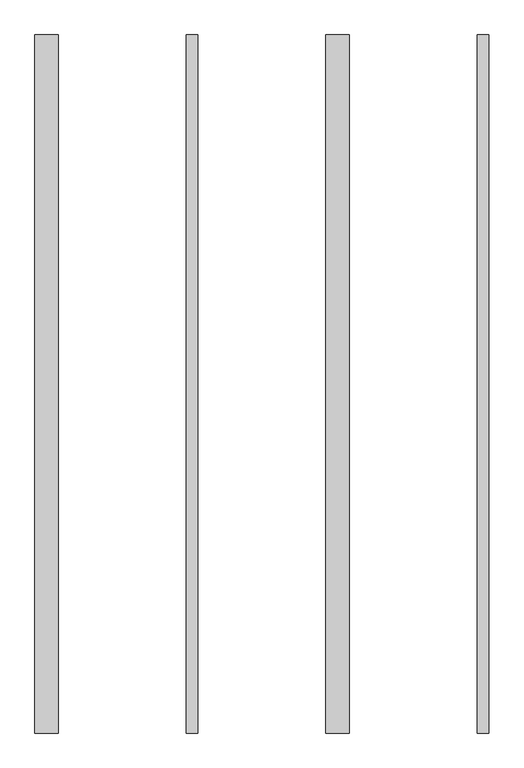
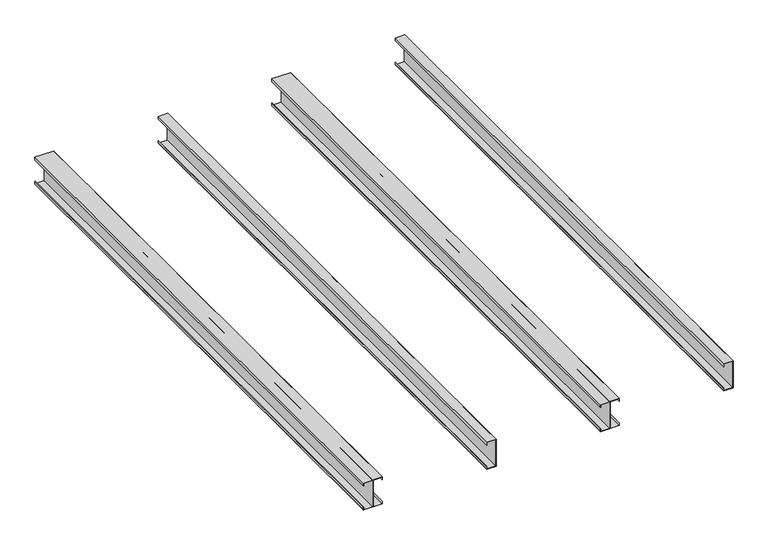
"""IFC4 building model written with IfcOpenShell, lengths in millimetres: proxy geometry, C and 2xCprofile 150mm : C and 2xCprofile 150mm."""

from ifc_helpers import new_model, si_unit, point, frame, frame_2d, origin, place, context, project, spatial, polyline, circle_curve, trimmed, segment, composite_curve, outline, extrude, source, transform, mapped, element, save


def generic_models_1a6a84ba(model_context):
    return source(origin(), model_context, "Body", "SweptSolid", [
        extrude(outline(composite_curve([segment(polyline([(73.8, 1223.8), (-73.8, 1223.8), (-73.8, 1176.2), (-60.0, 1176.2), (-60.0, 1175.0), (-74.3270817, 1175.0)]), True, "CONTINUOUS"), segment(trimmed(circle_curve(frame_2d((-74.3270817, 1175.6729183)), 0.6729183), [point((-74.3270817, 1175.0))], [point((-75.0, 1175.6729183))], False, "CARTESIAN"), True, "CONTINUOUS"), segment(polyline([(-75.0, 1175.6729183), (-75.0, 1275.0), (-60.0, 1275.0), (-60.0, 1273.8), (-73.8, 1273.8), (-73.8, 1226.2), (73.8, 1226.2), (73.8, 1273.8), (60.0, 1273.8), (60.0, 1275.0), (75.0, 1275.0), (75.0, 1175.0), (60.0, 1175.0), (60.0, 1176.2), (73.8, 1176.2), (73.8, 1223.8)]), True, "CONTINUOUS")], self_intersect=False)), frame((0.0, 0.0, 0.0), z_axis=(0.0, 1.0, 0.0), x_axis=(0.0, 0.0, 1.0)), (0.0, 0.0, 1.0), 3000.0),
        extrude(outline(composite_curve([segment(polyline([(73.8, -26.2), (-73.8, -26.2), (-73.8, -73.8), (-60.0, -73.8), (-60.0, -75.0), (-74.3270817, -75.0)]), True, "CONTINUOUS"), segment(trimmed(circle_curve(frame_2d((-74.3270817, -74.3270817)), 0.6729183), [point((-74.3270817, -75.0))], [point((-75.0, -74.3270817))], False, "CARTESIAN"), True, "CONTINUOUS"), segment(polyline([(-75.0, -74.3270817), (-75.0, 25.0), (-60.0, 25.0), (-60.0, 23.8), (-73.8, 23.8), (-73.8, -23.8), (73.8, -23.8), (73.8, 23.8), (60.0, 23.8), (60.0, 25.0), (75.0, 25.0), (75.0, -75.0), (60.0, -75.0), (60.0, -73.8), (73.8, -73.8), (73.8, -26.2)]), True, "CONTINUOUS")], self_intersect=False)), frame((0.0, 0.0, 0.0), z_axis=(0.0, 1.0, 0.0), x_axis=(0.0, 0.0, 1.0)), (0.0, 0.0, 1.0), 3000.0),
        extrude(outline(composite_curve([segment(polyline([(73.8, 1873.8), (-73.8, 1873.8), (-73.8, 1826.2), (-60.0, 1826.2), (-60.0, 1825.0), (-74.3270817, 1825.0)]), True, "CONTINUOUS"), segment(trimmed(circle_curve(frame_2d((-74.3270817, 1825.6729183)), 0.6729183), [point((-74.3270817, 1825.0))], [point((-75.0, 1825.6729183))], False, "CARTESIAN"), True, "CONTINUOUS"), segment(polyline([(-75.0, 1825.6729183), (-75.0, 1875.0), (75.0, 1875.0), (75.0, 1825.0), (60.0, 1825.0), (60.0, 1826.2), (73.8, 1826.2), (73.8, 1873.8)]), True, "CONTINUOUS")], self_intersect=False)), frame((0.0, 0.0, 0.0), z_axis=(0.0, 1.0, 0.0), x_axis=(0.0, 0.0, 1.0)), (0.0, 0.0, 1.0), 3000.0),
        extrude(outline(composite_curve([segment(polyline([(73.8, 623.8), (-73.8, 623.8), (-73.8, 576.2), (-60.0, 576.2), (-60.0, 575.0), (-74.3270817, 575.0)]), True, "CONTINUOUS"), segment(trimmed(circle_curve(frame_2d((-74.3270817, 575.6729183)), 0.6729183), [point((-74.3270817, 575.0))], [point((-75.0, 575.6729183))], False, "CARTESIAN"), True, "CONTINUOUS"), segment(polyline([(-75.0, 575.6729183), (-75.0, 625.0), (75.0, 625.0), (75.0, 575.0), (60.0, 575.0), (60.0, 576.2), (73.8, 576.2), (73.8, 623.8)]), True, "CONTINUOUS")], self_intersect=False)), frame((0.0, 0.0, 0.0), z_axis=(0.0, 1.0, 0.0), x_axis=(0.0, 0.0, 1.0)), (0.0, 0.0, 1.0), 3000.0),
    ])


if __name__ == "__main__":
    model = new_model("IFC4")
    model_context = context("Model", 3, world=origin())
    ifc_project = project(units=[si_unit("LENGTHUNIT", "METRE", prefix="MILLI")], contexts=[model_context])
    site = spatial("IfcSite", under=ifc_project)
    building = spatial("IfcBuilding", under=site)
    placement = place(None, origin())
    generic_models_shape = generic_models_1a6a84ba(model_context)
    element("IfcBuildingElementProxy", 1, Name="C and 2xCprofile 150mm : C and 2xCprofile 150mm", ObjectType="C and 2xCprofile 150mm : C and 2xCprofile 150mm", at=placement, inside=building, context=model_context, shape_type="MappedRepresentation", body=[
        mapped(generic_models_shape, transform((0.0, 0.0, 0.0), x_axis=(1.0, 0.0, 0.0), y_axis=(0.0, 1.0, 0.0), z_axis=(0.0, 0.0, 1.0))),
    ])
    save(model, "model.ifc")
